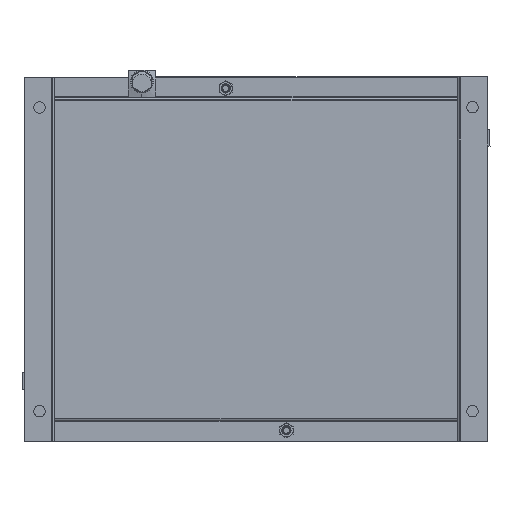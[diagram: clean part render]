
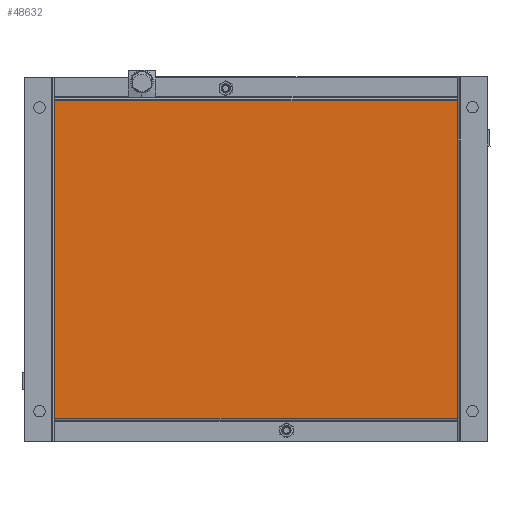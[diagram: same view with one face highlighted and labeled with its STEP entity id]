
A CAD part, front view. The second image highlights one B-rep face of the part: STEP entity #48632.
In plain terms, the highlighted planar face has unit normal (0, -1, 0).
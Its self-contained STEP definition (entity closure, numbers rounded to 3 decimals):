
#48250=DIRECTION('',(0.,0.,-1.));
#48251=VECTOR('',#48250,10.46);
#48252=CARTESIAN_POINT('',(4.87,-12.76,6.36));
#48253=LINE('',#48252,#48251);
#48254=DIRECTION('',(-1.,0.,0.));
#48255=VECTOR('',#48254,13.25);
#48256=CARTESIAN_POINT('',(4.874,-12.76,-4.1));
#48257=LINE('',#48256,#48255);
#48258=DIRECTION('',(0.,0.,1.));
#48259=VECTOR('',#48258,10.46);
#48260=CARTESIAN_POINT('',(-8.376,-12.76,-4.105));
#48261=LINE('',#48260,#48259);
#48267=DIRECTION('',(-1.,0.,0.));
#48268=VECTOR('',#48267,13.25);
#48269=CARTESIAN_POINT('',(4.87,-12.76,6.36));
#48270=LINE('',#48269,#48268);
#48456=CARTESIAN_POINT('',(4.874,-12.76,-4.1));
#48457=VERTEX_POINT('',#48456);
#48458=CARTESIAN_POINT('',(4.87,-12.76,6.36));
#48459=VERTEX_POINT('',#48458);
#48496=CARTESIAN_POINT('',(-8.376,-12.76,-4.105));
#48497=VERTEX_POINT('',#48496);
#48498=CARTESIAN_POINT('',(-8.38,-12.76,6.355));
#48499=VERTEX_POINT('',#48498);
#48618=CARTESIAN_POINT('',(4.874,-12.76,-4.1));
#48619=DIRECTION('',(0.,-1.,0.));
#48620=DIRECTION('',(0.,0.,1.));
#48621=AXIS2_PLACEMENT_3D('',#48618,#48619,#48620);
#48622=PLANE('',#48621);
#48624=ORIENTED_EDGE('',*,*,#48623,.T.);
#48625=ORIENTED_EDGE('',*,*,#48613,.T.);
#48627=ORIENTED_EDGE('',*,*,#48626,.T.);
#48629=ORIENTED_EDGE('',*,*,#48628,.F.);
#48630=EDGE_LOOP('',(#48624,#48625,#48627,#48629));
#48631=FACE_OUTER_BOUND('',#48630,.F.);
#48632=ADVANCED_FACE('',(#48631),#48622,.T.);
#48613=EDGE_CURVE('',#48457,#48497,#48257,.T.);
#48623=EDGE_CURVE('',#48459,#48457,#48253,.T.);
#48626=EDGE_CURVE('',#48497,#48499,#48261,.T.);
#48628=EDGE_CURVE('',#48459,#48499,#48270,.T.);
